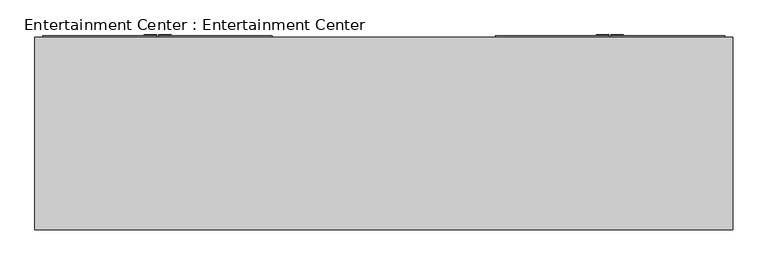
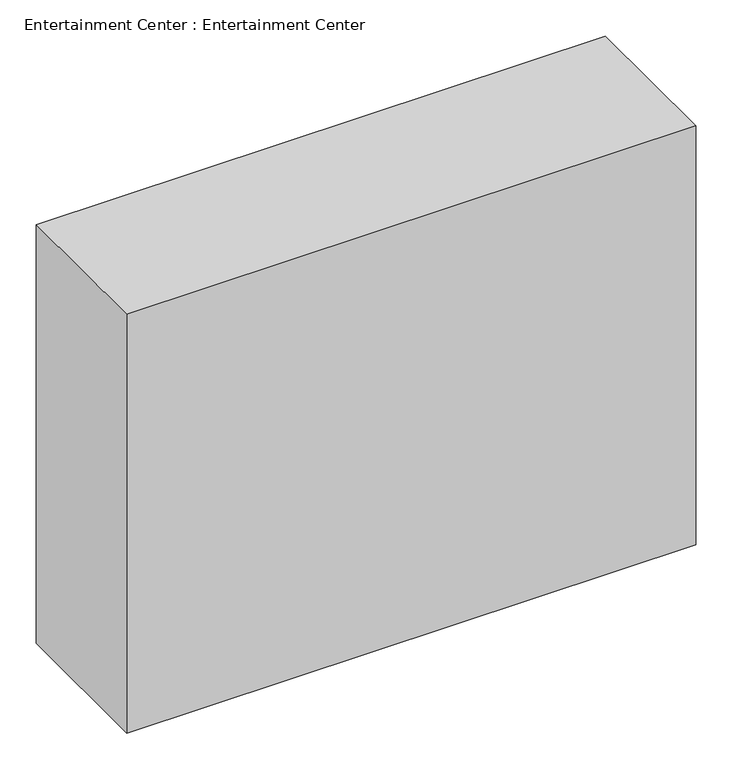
"""IFC4 building model written with IfcOpenShell, lengths in millimetres: furniture geometry, Entertainment Center : Entertainment Center."""

from ifc_helpers import new_model, si_unit, point, frame, frame_2d, origin, place, context, project, spatial, polyline, circle_curve, trimmed, segment, composite_curve, outline, extrude, faceted_brep, source, transform, mapped, element, save


def entertainment_center_entertainment_center_746af981(model_context):
    return source(origin(), model_context, "Body", "SolidModel", [
        faceted_brep([(1371.6, 781.05, 0.0), (-1371.6, 781.05, 0.0), (-1371.6, 781.05, 2133.6), (1371.6, 781.05, 2133.6), (-457.2, 781.05, 2082.8), (-1320.8, 781.05, 2082.8), (-1320.8, 781.05, 1612.9), (-457.2, 781.05, 1612.9), (-457.2, 781.05, 76.2), (-457.2, 781.05, 520.7), (-1320.8, 781.05, 520.7), (-1320.8, 781.05, 76.2), (1320.8, 781.05, 1612.9), (1320.8, 781.05, 2082.8), (457.2, 781.05, 2082.8), (457.2, 781.05, 1612.9), (-406.4, 781.05, 889.0), (406.4, 781.05, 889.0), (406.4, 781.05, 2082.8), (-406.4, 781.05, 2082.8), (406.4, 781.05, 76.2), (406.4, 781.05, 457.2), (-406.4, 781.05, 457.2), (-406.4, 781.05, 76.2), (1320.8, 781.05, 76.2), (1320.8, 781.05, 520.7), (457.2, 781.05, 520.7), (457.2, 781.05, 76.2), (-1320.8, 781.05, 546.1), (-457.2, 781.05, 546.1), (-457.2, 781.05, 1054.1), (-1320.8, 781.05, 1054.1), (-457.2, 781.05, 1587.5), (-1320.8, 781.05, 1587.5), (-1320.8, 781.05, 1079.5), (-457.2, 781.05, 1079.5), (457.2, 781.05, 1587.5), (457.2, 781.05, 1079.5), (1320.8, 781.05, 1079.5), (1320.8, 781.05, 1587.5), (457.2, 781.05, 1054.1), (457.2, 781.05, 546.1), (1320.8, 781.05, 546.1), (1320.8, 781.05, 1054.1), (406.4, 781.05, 482.6), (406.4, 781.05, 863.6), (-406.4, 781.05, 863.6), (-406.4, 781.05, 482.6), (1371.6, 25.4, 0.0), (1371.6, 25.4, 2133.6), (-1371.6, 25.4, 2133.6), (-1371.6, 25.4, 0.0), (-457.2, 50.8, 1612.9), (-457.2, 50.8, 2082.8), (-1320.8, 50.8, 1612.9), (-1320.8, 50.8, 2082.8), (-1320.8, 50.8, 76.2), (-457.2, 50.8, 76.2), (-1320.8, 50.8, 520.7), (-457.2, 50.8, 520.7), (457.2, 50.8, 1612.9), (1320.8, 50.8, 1612.9), (457.2, 50.8, 2082.8), (1320.8, 50.8, 2082.8), (-406.4, 50.8, 2082.8), (-406.4, 50.8, 889.0), (406.4, 50.8, 2082.8), (406.4, 50.8, 889.0), (-406.4, 50.8, 76.2), (406.4, 50.8, 76.2), (-406.4, 50.8, 457.2), (406.4, 50.8, 457.2), (457.2, 50.8, 76.2), (1320.8, 50.8, 76.2), (457.2, 50.8, 520.7), (1320.8, 50.8, 520.7), (-1320.8, 50.8, 1054.1), (-1320.8, 50.8, 546.1), (-457.2, 50.8, 1054.1), (-457.2, 50.8, 546.1), (-457.2, 50.8, 1079.5), (-457.2, 50.8, 1587.5), (-1320.8, 50.8, 1079.5), (-1320.8, 50.8, 1587.5), (1320.8, 50.8, 1587.5), (457.2, 50.8, 1587.5), (1320.8, 50.8, 1079.5), (457.2, 50.8, 1079.5), (1320.8, 50.8, 1054.1), (457.2, 50.8, 1054.1), (1320.8, 50.8, 546.1), (457.2, 50.8, 546.1), (-406.4, 50.8, 482.6), (406.4, 50.8, 482.6), (-406.4, 50.8, 863.6), (406.4, 50.8, 863.6)], [[[0, 1, 2, 3], [4, 5, 6, 7], [8, 9, 10, 11], [12, 13, 14, 15], [16, 17, 18, 19], [20, 21, 22, 23], [24, 25, 26, 27], [28, 29, 30, 31], [32, 33, 34, 35], [36, 37, 38, 39], [40, 41, 42, 43], [44, 45, 46, 47]], [[48, 49, 50, 51]], [[3, 49, 48, 0]], [[2, 50, 49, 3]], [[1, 51, 50, 2]], [[0, 48, 51, 1]], [[7, 52, 53, 4]], [[6, 54, 52, 7]], [[5, 55, 54, 6]], [[4, 53, 55, 5]], [[11, 56, 57, 8]], [[10, 58, 56, 11]], [[9, 59, 58, 10]], [[8, 57, 59, 9]], [[15, 60, 61, 12]], [[14, 62, 60, 15]], [[13, 63, 62, 14]], [[12, 61, 63, 13]], [[19, 64, 65, 16]], [[18, 66, 64, 19]], [[17, 67, 66, 18]], [[16, 65, 67, 17]], [[23, 68, 69, 20]], [[22, 70, 68, 23]], [[21, 71, 70, 22]], [[20, 69, 71, 21]], [[27, 72, 73, 24]], [[26, 74, 72, 27]], [[25, 75, 74, 26]], [[24, 73, 75, 25]], [[31, 76, 77, 28]], [[30, 78, 76, 31]], [[29, 79, 78, 30]], [[28, 77, 79, 29]], [[35, 80, 81, 32]], [[34, 82, 80, 35]], [[33, 83, 82, 34]], [[32, 81, 83, 33]], [[39, 84, 85, 36]], [[38, 86, 84, 39]], [[37, 87, 86, 38]], [[36, 85, 87, 37]], [[43, 88, 89, 40]], [[42, 90, 88, 43]], [[41, 91, 90, 42]], [[40, 89, 91, 41]], [[47, 92, 93, 44]], [[46, 94, 92, 47]], [[45, 95, 94, 46]], [[44, 93, 95, 45]], [[52, 54, 55, 53]], [[56, 58, 59, 57]], [[60, 62, 63, 61]], [[64, 66, 67, 65]], [[68, 70, 71, 69]], [[72, 74, 75, 73]], [[76, 78, 79, 77]], [[80, 82, 83, 81]], [[84, 86, 87, 85]], [[88, 90, 91, 89]], [[92, 94, 95, 93]]]),
        extrude(outline(composite_curve([segment(polyline([(1155.7, -861.5986452), (1155.7, -885.825), (977.9, -885.825), (977.9, -861.5986452)]), True, "CONTINUOUS"), segment(trimmed(circle_curve(frame_2d((1003.3, -861.5986452)), 25.4), [point((977.9, -861.5986452))], [point((1003.3, -836.1986452))], False, "CARTESIAN"), True, "CONTINUOUS"), segment(polyline([(1003.3, -836.1986452), (1130.3, -836.1986452)]), True, "CONTINUOUS"), segment(trimmed(circle_curve(frame_2d((1130.3, -861.5986452)), 25.4), [point((1130.3, -836.1986452))], [point((1155.7, -861.5986452))], False, "CARTESIAN"), True, "CONTINUOUS")], self_intersect=False)), frame((0.0, 787.4, 0.0), z_axis=(0.0, 1.0, 0.0), x_axis=(0.0, 0.0, 1.0)), (0.0, 0.0, 1.0), 3.175),
        extrude(outline(composite_curve([segment(trimmed(circle_curve(frame_2d((1130.3, -916.78125)), 25.4), [point((1155.7, -916.78125))], [point((1130.3, -942.18125))], False, "CARTESIAN"), True, "CONTINUOUS"), segment(polyline([(1130.3, -942.18125), (1003.3, -942.18125)]), True, "CONTINUOUS"), segment(trimmed(circle_curve(frame_2d((1003.3, -916.78125)), 25.4), [point((1003.3, -942.18125))], [point((977.9, -916.78125))], False, "CARTESIAN"), True, "CONTINUOUS"), segment(polyline([(977.9, -916.78125), (977.9, -892.175), (1155.7, -892.175), (1155.7, -916.78125)]), True, "CONTINUOUS")], self_intersect=False)), frame((0.0, 787.4, 0.0), z_axis=(0.0, 1.0, 0.0), x_axis=(0.0, 0.0, 1.0)), (0.0, 0.0, 1.0), 3.175),
        extrude(outline(composite_curve([segment(trimmed(circle_curve(frame_2d((1130.3, 861.5986452)), 25.4), [point((1155.7, 861.5986452))], [point((1130.3, 836.1986452))], False, "CARTESIAN"), True, "CONTINUOUS"), segment(polyline([(1130.3, 836.1986452), (1003.3, 836.1986452)]), True, "CONTINUOUS"), segment(trimmed(circle_curve(frame_2d((1003.3, 861.5986452)), 25.4), [point((1003.3, 836.1986452))], [point((977.9, 861.5986452))], False, "CARTESIAN"), True, "CONTINUOUS"), segment(polyline([(977.9, 861.5986452), (977.9, 885.825), (1155.7, 885.825), (1155.7, 861.5986452)]), True, "CONTINUOUS")], self_intersect=False)), frame((0.0, 787.4, 0.0), z_axis=(0.0, 1.0, 0.0), x_axis=(0.0, 0.0, 1.0)), (0.0, 0.0, 1.0), 3.175),
        extrude(outline(composite_curve([segment(polyline([(1155.7, 916.78125), (1155.7, 892.175), (977.9, 892.175), (977.9, 916.78125)]), True, "CONTINUOUS"), segment(trimmed(circle_curve(frame_2d((1003.3, 916.78125)), 25.4), [point((977.9, 916.78125))], [point((1003.3, 942.18125))], False, "CARTESIAN"), True, "CONTINUOUS"), segment(polyline([(1003.3, 942.18125), (1130.3, 942.18125)]), True, "CONTINUOUS"), segment(trimmed(circle_curve(frame_2d((1130.3, 916.78125)), 25.4), [point((1130.3, 942.18125))], [point((1155.7, 916.78125))], False, "CARTESIAN"), True, "CONTINUOUS")], self_intersect=False)), frame((0.0, 787.4, 0.0), z_axis=(0.0, 1.0, 0.0), x_axis=(0.0, 0.0, 1.0)), (0.0, 0.0, 1.0), 3.175),
        extrude(outline(polyline([(-1339.85, 781.05), (-1339.85, 787.4), (-892.175, 787.4), (-892.175, 781.05), (-1339.85, 781.05)])), frame((0.0, 0.0, 50.8), z_axis=(0.0, 0.0, 1.0), x_axis=(1.0, 0.0, 0.0)), (0.0, 0.0, 1.0), 2051.05),
        extrude(outline(polyline([(-885.825, 781.05), (-885.825, 787.4), (-438.15, 787.4), (-438.15, 781.05), (-885.825, 781.05)])), frame((0.0, 0.0, 50.8), z_axis=(0.0, 0.0, 1.0), x_axis=(1.0, 0.0, 0.0)), (0.0, 0.0, 1.0), 2051.05),
        extrude(outline(polyline([(892.175, 781.05), (892.175, 787.4), (1339.85, 787.4), (1339.85, 781.05), (892.175, 781.05)])), frame((0.0, 0.0, 50.8), z_axis=(0.0, 0.0, 1.0), x_axis=(1.0, 0.0, 0.0)), (0.0, 0.0, 1.0), 2051.05),
        extrude(outline(polyline([(438.15, 781.05), (438.15, 787.4), (885.825, 787.4), (885.825, 781.05), (438.15, 781.05)])), frame((0.0, 0.0, 50.8), z_axis=(0.0, 0.0, 1.0), x_axis=(1.0, 0.0, 0.0)), (0.0, 0.0, 1.0), 2051.05),
    ])


if __name__ == "__main__":
    model = new_model("IFC4")
    model_context = context("Model", 3, world=origin())
    ifc_project = project(units=[si_unit("LENGTHUNIT", "METRE", prefix="MILLI")], contexts=[model_context])
    site = spatial("IfcSite", under=ifc_project)
    building = spatial("IfcBuilding", under=site)
    placement = place(None, origin())
    entertainment_center_entertainment_center_shape = entertainment_center_entertainment_center_746af981(model_context)
    element("IfcFurniture", 1, ObjectType="Entertainment Center : Entertainment Center", at=placement, inside=building, context=model_context, shape_type="MappedRepresentation", body=[
        mapped(entertainment_center_entertainment_center_shape, transform((0.0, 0.0, 0.0), x_axis=(1.0, 0.0, 0.0), y_axis=(0.0, 1.0, 0.0), z_axis=(0.0, 0.0, 1.0))),
    ])
    save(model, "model.ifc")
